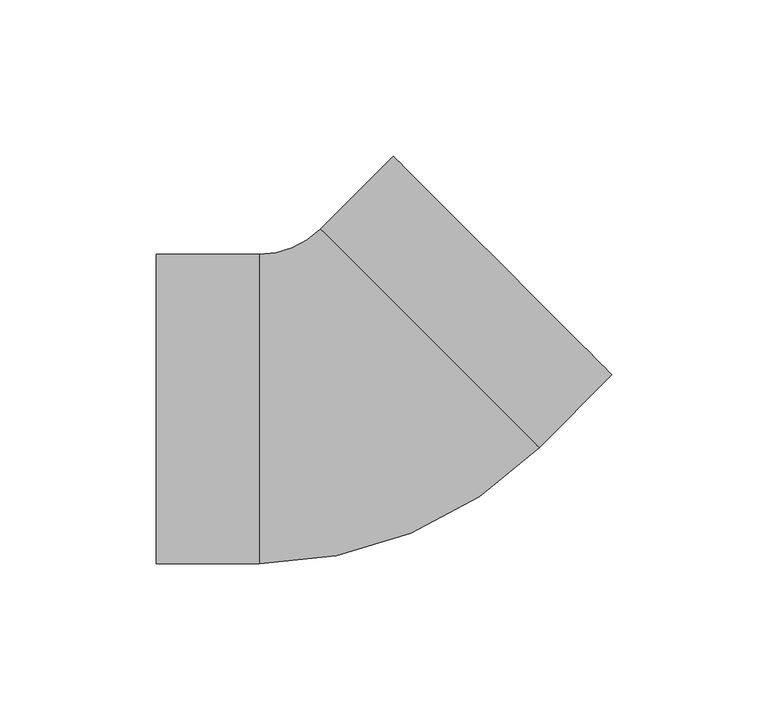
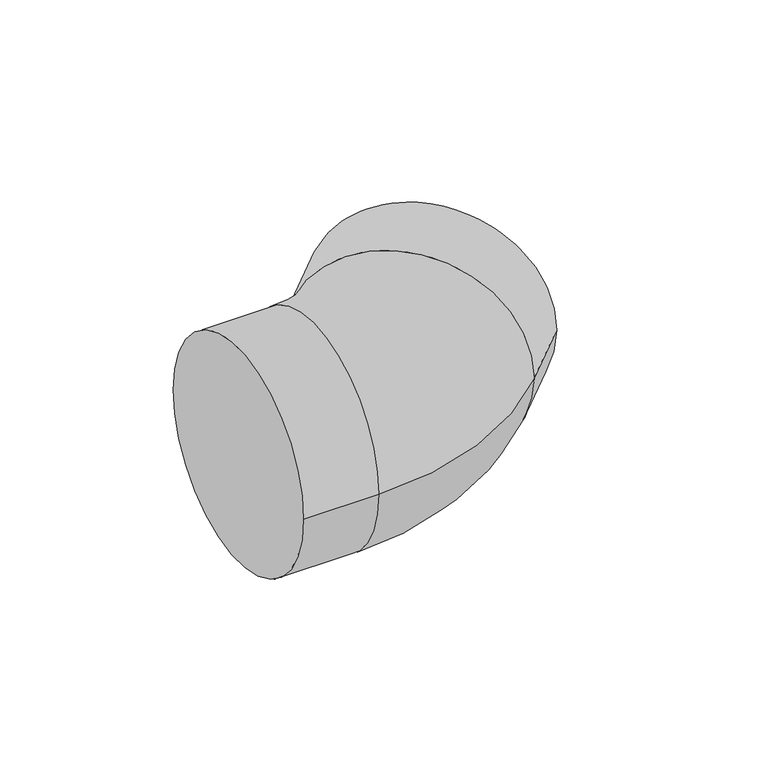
"""IFC4 building model written with IfcOpenShell, lengths in millimetres: pipe fitting geometry, NIRON RED termofusion codo : Estándar."""

from ifc_helpers import new_model, si_unit, point, frame, origin, place, context, project, spatial, circle_curve, ellipse_curve, trimmed, source, transform, mapped, element, save
from ifc_brep_helpers import plane_surface, cylinder_surface, revolved_surface, advanced_brep


def pipe_fitting_ef815d59(model_context):
    return source(origin(), model_context, "Body", "AdvancedBrep", [
        advanced_brep(
        [(-65.0, -49.5, 0.0), (-65.0, 49.5, 0.0), (-32.0, -49.5, 0.0), (-32.0, 49.5, 0.0), (-12.3743687, 57.6292027, 0.0), (57.6292027, -12.3743687, 0.0), (22.627417, 22.627417, 49.5), (22.627417, 22.627417, -49.5), (80.9637264, 10.9601551, 0.0), (10.9601551, 80.9637264, 0.0)],
        [
            (0, 1, circle_curve(frame((-65.0, 0.0, 0.0), z_axis=(-1.0, 0.0, 0.0), x_axis=(0.0, 1.0, 0.0)), 49.5)),
            (1, 0, circle_curve(frame((-65.0, 0.0, 0.0), z_axis=(-1.0, 0.0, 0.0), x_axis=(0.0, 1.0, 0.0)), 49.5)),
            (0, 2),
            (2, 3, circle_curve(frame((-32.0, 0.0, 0.0), z_axis=(-1.0, 0.0, 0.0), x_axis=(0.0, 1.0, 0.0)), 49.5)),
            (3, 1),
            (3, 2, circle_curve(frame((-32.0, 0.0, 0.0), z_axis=(-1.0, 0.0, 0.0), x_axis=(0.0, 1.0, 0.0)), 49.5)),
            (4, 3, circle_curve(frame((-32.0, 77.254834, 0.0), z_axis=(0.0, 0.0, -1.0), x_axis=(0.0, -1.0, 0.0)), 27.754834)),
            (2, 5, circle_curve(frame((-32.0, 77.254834, 0.0), z_axis=(0.0, 0.0, 1.0), x_axis=(0.0, -1.0, 0.0)), 126.754834)),
            (5, 6, circle_curve(frame((22.627417, 22.627417, 0.0), z_axis=(-0.7071067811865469, -0.7071067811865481, 0.0), x_axis=(-0.7071067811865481, 0.7071067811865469, 0.0)), 49.5)),
            (6, 4, circle_curve(frame((22.627417, 22.627417, 0.0), z_axis=(-0.7071067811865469, -0.7071067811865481, 0.0), x_axis=(-0.7071067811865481, 0.7071067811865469, 0.0)), 49.5)),
            (4, 7, circle_curve(frame((22.627417, 22.627417, 0.0), z_axis=(-0.7071067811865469, -0.7071067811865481, 0.0), x_axis=(-0.7071067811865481, 0.7071067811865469, 0.0)), 49.5)),
            (7, 5, circle_curve(frame((22.627417, 22.627417, 0.0), z_axis=(-0.7071067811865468, -0.7071067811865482, 0.0), x_axis=(-0.7071067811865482, 0.7071067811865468, 0.0)), 49.5)),
            (8, 9, circle_curve(frame((45.9619408, 45.9619408, 0.0), z_axis=(0.7071067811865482, 0.7071067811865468, 0.0), x_axis=(-0.7071067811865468, 0.7071067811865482, 0.0)), 49.5)),
            (9, 8, circle_curve(frame((45.9619408, 45.9619408, 0.0), z_axis=(0.7071067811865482, 0.7071067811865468, 0.0), x_axis=(-0.7071067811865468, 0.7071067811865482, 0.0)), 49.5)),
            (9, 4),
            (5, 8),
        ],
        [
            plane_surface(frame((-65.0, 0.0, 0.0), z_axis=(-1.0, 0.0, 0.0), x_axis=(0.0, 0.0, 1.0))),
            cylinder_surface(frame((-65.0, 0.0, 0.0), z_axis=(-1.0, 0.0, 0.0), x_axis=(0.0, 1.0, 0.0)), 49.5),
            revolved_surface(trimmed(ellipse_curve(frame((-32.0, 0.0, 0.0), z_axis=(-1.0, 0.0, 0.0), x_axis=(0.0, 1.0, 0.0)), 49.5, 49.5), [point((-32.0, -49.5, 0.0))], [point((-32.0, 49.5, 0.0))], True, "CARTESIAN"), (-32.0, 77.254834, 0.0), (0.0, 0.0, 1.0)),
            revolved_surface(trimmed(ellipse_curve(frame((-32.0, 0.0, 0.0), z_axis=(-1.0, 0.0, 0.0), x_axis=(0.0, 1.0, 0.0)), 49.5, 49.5), [point((-32.0, 49.5, 0.0))], [point((-32.0, -49.5, 0.0))], True, "CARTESIAN"), (-32.0, 77.254834, 0.0), (0.0, 0.0, 1.0)),
            plane_surface(frame((45.9619408, 45.9619408, 0.0), z_axis=(0.7071067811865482, 0.7071067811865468, 0.0), x_axis=(0.0, 0.0, 1.0))),
            cylinder_surface(frame((22.627417, 22.627417, 0.0), z_axis=(-0.7071067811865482, -0.7071067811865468, 0.0), x_axis=(-0.7071067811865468, 0.7071067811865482, 0.0)), 49.5),
        ],
        [
            (0, [[1, 2]]),
            (1, [[-1, 3, 4, 5]]),
            (1, [[-2, -5, 6, -3]]),
            (2, [[7, -4, 8, 9, 10]]),
            (3, [[-7, 11, 12, -8, -6]]),
            (4, [[13, 14]]),
            (5, [[-14, 15, -10, -9, 16]]),
            (5, [[-13, -16, -12, -11, -15]]),
        ],
    ),
    ])


if __name__ == "__main__":
    model = new_model("IFC4")
    model_context = context("Model", 3, world=origin())
    ifc_project = project(units=[si_unit("LENGTHUNIT", "METRE", prefix="MILLI")], contexts=[model_context])
    site = spatial("IfcSite", under=ifc_project)
    building = spatial("IfcBuilding", under=site)
    placement = place(None, origin())
    pipe_fitting_shape = pipe_fitting_ef815d59(model_context)
    element("IfcPipeFitting", 1, ObjectType="NIRON RED termofusion codo : Estándar", at=placement, inside=building, context=model_context, shape_type="MappedRepresentation", body=[
        mapped(pipe_fitting_shape, transform((0.0, 0.0, 0.0), x_axis=(1.0, 0.0, 0.0), y_axis=(0.0, 1.0, 0.0), z_axis=(0.0, 0.0, 1.0))),
    ])
    save(model, "model.ifc")
